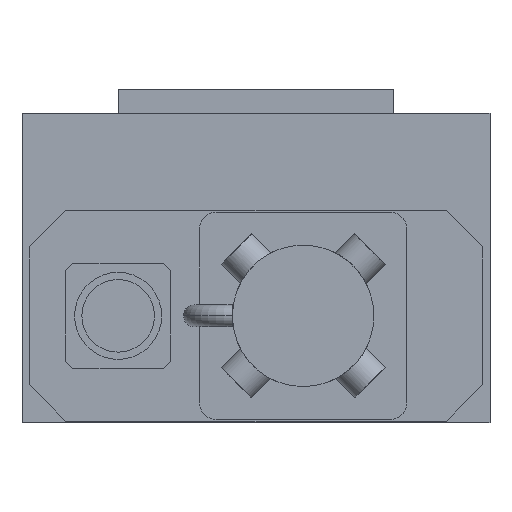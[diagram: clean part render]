
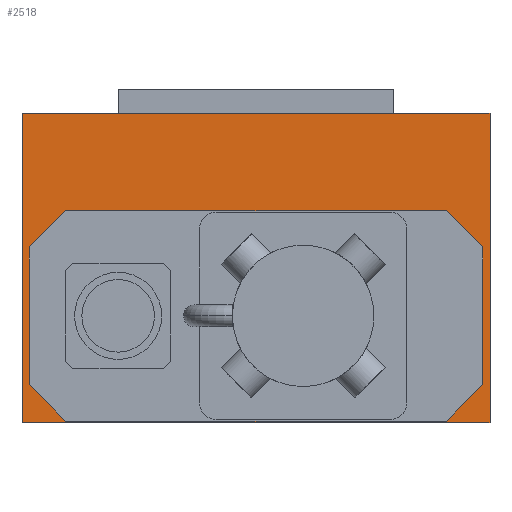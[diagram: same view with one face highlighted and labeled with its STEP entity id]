
A CAD part, left-side view. The second image highlights one B-rep face of the part: STEP entity #2518.
In plain terms, the highlighted planar face has unit normal (-1, 0, 0).
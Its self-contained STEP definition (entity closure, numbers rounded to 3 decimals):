
#2344 = EDGE_CURVE ( 'NONE', #2345, #2346, #4763, .T. ) ;
#2345 = VERTEX_POINT ( 'NONE', #4759 ) ;
#2346 = VERTEX_POINT ( 'NONE', #4758 ) ;
#2518 = ADVANCED_FACE ( 'NONE', ( #5056, #5055 ), #5054, .F. ) ;
#2519 = EDGE_LOOP ( 'NONE', ( #2520, #2524, #2527, #2530 ) ) ;
#2520 = ORIENTED_EDGE ( 'NONE', *, *, #2521, .T. ) ;
#2521 = EDGE_CURVE ( 'NONE', #2522, #2523, #5049, .T. ) ;
#2522 = VERTEX_POINT ( 'NONE', #5118 ) ;
#2523 = VERTEX_POINT ( 'NONE', #5117 ) ;
#2524 = ORIENTED_EDGE ( 'NONE', *, *, #2525, .F. ) ;
#2525 = EDGE_CURVE ( 'NONE', #2526, #2523, #5116, .T. ) ;
#2526 = VERTEX_POINT ( 'NONE', #5112 ) ;
#2527 = ORIENTED_EDGE ( 'NONE', *, *, #2528, .F. ) ;
#2528 = EDGE_CURVE ( 'NONE', #2529, #2526, #5111, .T. ) ;
#2529 = VERTEX_POINT ( 'NONE', #5107 ) ;
#2530 = ORIENTED_EDGE ( 'NONE', *, *, #2531, .T. ) ;
#2531 = EDGE_CURVE ( 'NONE', #2529, #2522, #5048, .T. ) ;
#2532 = EDGE_LOOP ( 'NONE', ( #2533, #2735, #2738, #2741, #2744, #2747, #2727, #2729 ) ) ;
#2533 = ORIENTED_EDGE ( 'NONE', *, *, #2534, .F. ) ;
#2534 = EDGE_CURVE ( 'NONE', #2535, #2345, #5044, .T. ) ;
#2535 = VERTEX_POINT ( 'NONE', #5040 ) ;
#2726 = VERTEX_POINT ( 'NONE', #5535 ) ;
#2727 = ORIENTED_EDGE ( 'NONE', *, *, #2728, .F. ) ;
#2728 = EDGE_CURVE ( 'NONE', #2346, #2726, #5534, .T. ) ;
#2729 = ORIENTED_EDGE ( 'NONE', *, *, #2344, .F. ) ;
#2735 = ORIENTED_EDGE ( 'NONE', *, *, #2736, .F. ) ;
#2736 = EDGE_CURVE ( 'NONE', #2737, #2535, #5555, .T. ) ;
#2737 = VERTEX_POINT ( 'NONE', #5551 ) ;
#2738 = ORIENTED_EDGE ( 'NONE', *, *, #2739, .F. ) ;
#2739 = EDGE_CURVE ( 'NONE', #2740, #2737, #5550, .T. ) ;
#2740 = VERTEX_POINT ( 'NONE', #5546 ) ;
#2741 = ORIENTED_EDGE ( 'NONE', *, *, #2742, .F. ) ;
#2742 = EDGE_CURVE ( 'NONE', #2743, #2740, #5545, .T. ) ;
#2743 = VERTEX_POINT ( 'NONE', #5641 ) ;
#2744 = ORIENTED_EDGE ( 'NONE', *, *, #2745, .F. ) ;
#2745 = EDGE_CURVE ( 'NONE', #2746, #2743, #5640, .T. ) ;
#2746 = VERTEX_POINT ( 'NONE', #5636 ) ;
#2747 = ORIENTED_EDGE ( 'NONE', *, *, #2748, .F. ) ;
#2748 = EDGE_CURVE ( 'NONE', #2726, #2746, #5635, .T. ) ;
#4758 = CARTESIAN_POINT ( 'NONE',  ( -89.5, 52.5, 58.5 ) ) ;
#4759 = CARTESIAN_POINT ( 'NONE',  ( -89.5, -52.5, 58.5 ) ) ;
#4760 = DIRECTION ( 'NONE',  ( 0., 1., 0. ) ) ;
#4761 = VECTOR ( 'NONE', #4760, 1000. ) ;
#4762 = CARTESIAN_POINT ( 'NONE',  ( -89.5, 52.5, 58.5 ) ) ;
#4763 = LINE ( 'NONE', #4762, #4761 ) ;
#5040 = CARTESIAN_POINT ( 'NONE',  ( -89.5, -62.5, 48.5 ) ) ;
#5041 = DIRECTION ( 'NONE',  ( 0., 0.707, 0.707 ) ) ;
#5042 = VECTOR ( 'NONE', #5041, 1000. ) ;
#5043 = CARTESIAN_POINT ( 'NONE',  ( -89.5, -52.5, 58.5 ) ) ;
#5044 = LINE ( 'NONE', #5043, #5042 ) ;
#5045 = DIRECTION ( 'NONE',  ( 0., 0., -1. ) ) ;
#5046 = VECTOR ( 'NONE', #5045, 1000. ) ;
#5047 = CARTESIAN_POINT ( 'NONE',  ( -89.5, 64.5, 85.3 ) ) ;
#5048 = LINE ( 'NONE', #5047, #5046 ) ;
#5049 = LINE ( 'NONE', #5121, #5120 ) ;
#5050 = DIRECTION ( 'NONE',  ( 0., 1., 0. ) ) ;
#5051 = DIRECTION ( 'NONE',  ( 1., 0., 0. ) ) ;
#5052 = CARTESIAN_POINT ( 'NONE',  ( -89.5, 64.5, 85.3 ) ) ;
#5053 = AXIS2_PLACEMENT_3D ( 'NONE', #5052, #5051, #5050 ) ;
#5054 = PLANE ( 'NONE',  #5053 ) ;
#5055 = FACE_BOUND ( 'NONE', #2532, .T. ) ;
#5056 = FACE_OUTER_BOUND ( 'NONE', #2519, .T. ) ;
#5107 = CARTESIAN_POINT ( 'NONE',  ( -89.5, 64.5, 85.3 ) ) ;
#5108 = DIRECTION ( 'NONE',  ( 0., -1., 0. ) ) ;
#5109 = VECTOR ( 'NONE', #5108, 1000. ) ;
#5110 = CARTESIAN_POINT ( 'NONE',  ( -89.5, 64.5, 85.3 ) ) ;
#5111 = LINE ( 'NONE', #5110, #5109 ) ;
#5112 = CARTESIAN_POINT ( 'NONE',  ( -89.5, -64.5, 85.3 ) ) ;
#5113 = DIRECTION ( 'NONE',  ( 0., 0., -1. ) ) ;
#5114 = VECTOR ( 'NONE', #5113, 1000. ) ;
#5115 = CARTESIAN_POINT ( 'NONE',  ( -89.5, -64.5, 85.3 ) ) ;
#5116 = LINE ( 'NONE', #5115, #5114 ) ;
#5117 = CARTESIAN_POINT ( 'NONE',  ( -89.5, -64.5, 0. ) ) ;
#5118 = CARTESIAN_POINT ( 'NONE',  ( -89.5, 64.5, 0. ) ) ;
#5119 = DIRECTION ( 'NONE',  ( 0., -1., 0. ) ) ;
#5120 = VECTOR ( 'NONE', #5119, 1000. ) ;
#5121 = CARTESIAN_POINT ( 'NONE',  ( -89.5, 64.5, 0. ) ) ;
#5532 = DIRECTION ( 'NONE',  ( 0., 0.707, -0.707 ) ) ;
#5533 = CARTESIAN_POINT ( 'NONE',  ( -89.5, 62.5, 48.5 ) ) ;
#5534 = LINE ( 'NONE', #5533, #5659 ) ;
#5535 = CARTESIAN_POINT ( 'NONE',  ( -89.5, 62.5, 48.5 ) ) ;
#5542 = DIRECTION ( 'NONE',  ( 0., -1., 0. ) ) ;
#5543 = VECTOR ( 'NONE', #5542, 1000. ) ;
#5544 = CARTESIAN_POINT ( 'NONE',  ( -89.5, 52.5, 0.5 ) ) ;
#5545 = LINE ( 'NONE', #5544, #5543 ) ;
#5546 = CARTESIAN_POINT ( 'NONE',  ( -89.5, -52.5, 0.5 ) ) ;
#5547 = DIRECTION ( 'NONE',  ( 0., -0.707, 0.707 ) ) ;
#5548 = VECTOR ( 'NONE', #5547, 1000. ) ;
#5549 = CARTESIAN_POINT ( 'NONE',  ( -89.5, -52.5, 0.5 ) ) ;
#5550 = LINE ( 'NONE', #5549, #5548 ) ;
#5551 = CARTESIAN_POINT ( 'NONE',  ( -89.5, -62.5, 10.5 ) ) ;
#5552 = DIRECTION ( 'NONE',  ( 0., 0., 1. ) ) ;
#5553 = VECTOR ( 'NONE', #5552, 1000. ) ;
#5554 = CARTESIAN_POINT ( 'NONE',  ( -89.5, -62.5, 10.5 ) ) ;
#5555 = LINE ( 'NONE', #5554, #5553 ) ;
#5635 = LINE ( 'NONE', #5679, #5678 ) ;
#5636 = CARTESIAN_POINT ( 'NONE',  ( -89.5, 62.5, 10.5 ) ) ;
#5637 = DIRECTION ( 'NONE',  ( 0., -0.707, -0.707 ) ) ;
#5638 = VECTOR ( 'NONE', #5637, 1000. ) ;
#5639 = CARTESIAN_POINT ( 'NONE',  ( -89.5, 62.5, 10.5 ) ) ;
#5640 = LINE ( 'NONE', #5639, #5638 ) ;
#5641 = CARTESIAN_POINT ( 'NONE',  ( -89.5, 52.5, 0.5 ) ) ;
#5659 = VECTOR ( 'NONE', #5532, 1000. ) ;
#5677 = DIRECTION ( 'NONE',  ( 0., 0., -1. ) ) ;
#5678 = VECTOR ( 'NONE', #5677, 1000. ) ;
#5679 = CARTESIAN_POINT ( 'NONE',  ( -89.5, 62.5, 10.5 ) ) ;
